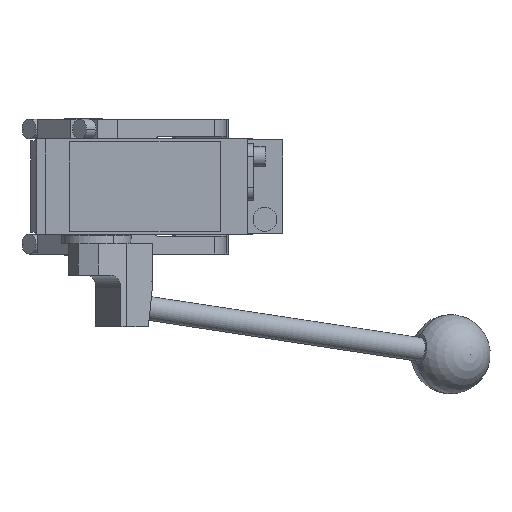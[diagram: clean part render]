
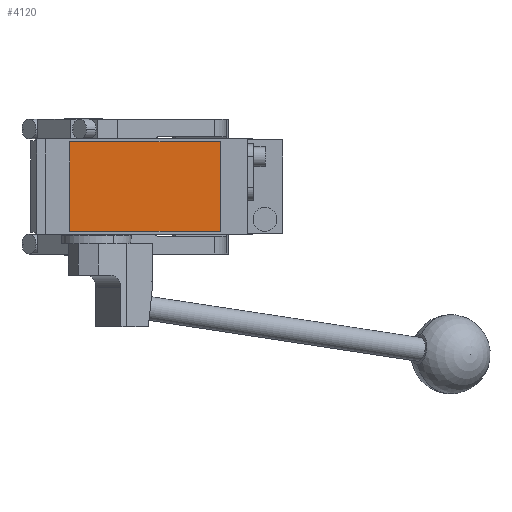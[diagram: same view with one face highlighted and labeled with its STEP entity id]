
A CAD part, front view. The second image highlights one B-rep face of the part: STEP entity #4120.
In plain terms, the highlighted planar face has unit normal (0, -1, 0).
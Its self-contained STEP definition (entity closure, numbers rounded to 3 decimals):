
#51 = CARTESIAN_POINT ( 'NONE',  ( -7., -280.5, -22.5 ) ) ;
#147 = AXIS2_PLACEMENT_3D ( 'NONE', #11675, #316, #12892 ) ;
#316 = DIRECTION ( 'NONE',  ( 0., -1., 0. ) ) ;
#494 = ORIENTED_EDGE ( 'NONE', *, *, #6232, .T. ) ;
#614 = VECTOR ( 'NONE', #5009, 1000. ) ;
#669 = CARTESIAN_POINT ( 'NONE',  ( -7., -280.5, -22.5 ) ) ;
#1157 = ORIENTED_EDGE ( 'NONE', *, *, #5449, .T. ) ;
#1464 = CARTESIAN_POINT ( 'NONE',  ( -7., -280.5, 22.5 ) ) ;
#1815 = VERTEX_POINT ( 'NONE', #51 ) ;
#3095 = LINE ( 'NONE', #10233, #6519 ) ;
#3867 = VERTEX_POINT ( 'NONE', #1464 ) ;
#4079 = EDGE_CURVE ( 'NONE', #5353, #4496, #7203, .T. ) ;
#4120 = ADVANCED_FACE ( 'NONE', ( #7349 ), #8206, .T. ) ;
#4496 = VERTEX_POINT ( 'NONE', #13181 ) ;
#4539 = CARTESIAN_POINT ( 'NONE',  ( 69., -280.5, -22.5 ) ) ;
#4679 = DIRECTION ( 'NONE',  ( 0., 0., -1. ) ) ;
#5009 = DIRECTION ( 'NONE',  ( 0., 0., 1. ) ) ;
#5353 = VERTEX_POINT ( 'NONE', #4539 ) ;
#5447 = DIRECTION ( 'NONE',  ( -1., 0., 0. ) ) ;
#5449 = EDGE_CURVE ( 'NONE', #1815, #5353, #7559, .T. ) ;
#5983 = CARTESIAN_POINT ( 'NONE',  ( -7., -280.5, 22.5 ) ) ;
#6199 = ORIENTED_EDGE ( 'NONE', *, *, #4079, .T. ) ;
#6232 = EDGE_CURVE ( 'NONE', #3867, #1815, #13944, .T. ) ;
#6519 = VECTOR ( 'NONE', #5447, 1000. ) ;
#7203 = LINE ( 'NONE', #10777, #614 ) ;
#7349 = FACE_OUTER_BOUND ( 'NONE', #9491, .T. ) ;
#7450 = ORIENTED_EDGE ( 'NONE', *, *, #7540, .T. ) ;
#7540 = EDGE_CURVE ( 'NONE', #4496, #3867, #3095, .T. ) ;
#7559 = LINE ( 'NONE', #669, #14925 ) ;
#7688 = VECTOR ( 'NONE', #4679, 1000. ) ;
#8206 = PLANE ( 'NONE',  #147 ) ;
#9491 = EDGE_LOOP ( 'NONE', ( #494, #1157, #6199, #7450 ) ) ;
#10233 = CARTESIAN_POINT ( 'NONE',  ( -7., -280.5, 22.5 ) ) ;
#10777 = CARTESIAN_POINT ( 'NONE',  ( 69., -280.5, 22.5 ) ) ;
#11675 = CARTESIAN_POINT ( 'NONE',  ( 0., -280.5, 0. ) ) ;
#12892 = DIRECTION ( 'NONE',  ( 0., 0., -1. ) ) ;
#13181 = CARTESIAN_POINT ( 'NONE',  ( 69., -280.5, 22.5 ) ) ;
#13341 = DIRECTION ( 'NONE',  ( 1., 0., 0. ) ) ;
#13944 = LINE ( 'NONE', #5983, #7688 ) ;
#14925 = VECTOR ( 'NONE', #13341, 1000. ) ;
